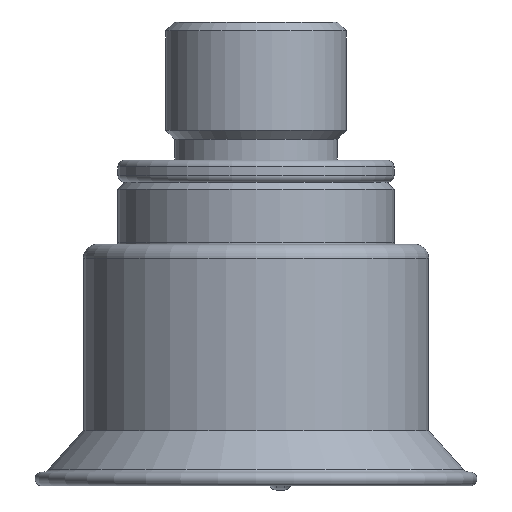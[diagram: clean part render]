
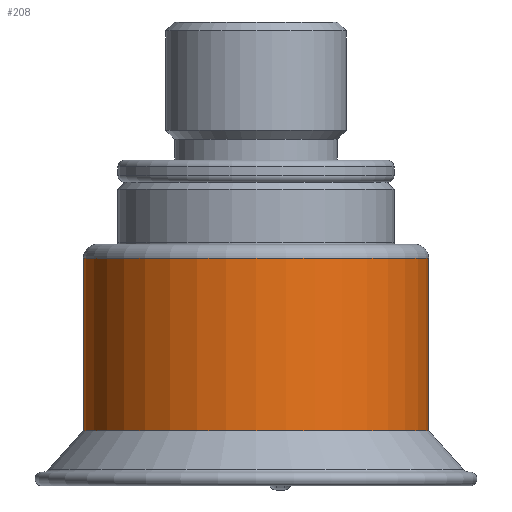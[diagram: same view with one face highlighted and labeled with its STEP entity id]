
A CAD part, front view. The second image highlights one B-rep face of the part: STEP entity #208.
In plain terms, the highlighted cylindrical face has radius 12.5 mm (diameter 25 mm), a full revolution.
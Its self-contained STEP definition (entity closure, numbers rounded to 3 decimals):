
#208 = ADVANCED_FACE( '', ( #468, #469 ), #470, .T. );
#468 = FACE_OUTER_BOUND( '', #789, .T. );
#469 = FACE_OUTER_BOUND( '', #790, .T. );
#470 = CYLINDRICAL_SURFACE( '', #791, 12.5 );
#789 = EDGE_LOOP( '', ( #1181 ) );
#790 = EDGE_LOOP( '', ( #1182 ) );
#791 = AXIS2_PLACEMENT_3D( '', #1183, #1184, #1185 );
#1181 = ORIENTED_EDGE( '', *, *, #1430, .T. );
#1182 = ORIENTED_EDGE( '', *, *, #1432, .F. );
#1183 = CARTESIAN_POINT( '', ( 0., 0., 10.665 ) );
#1184 = DIRECTION( '', ( 0., 0., -1. ) );
#1185 = DIRECTION( '', ( 1., 0., 0. ) );
#1430 = EDGE_CURVE( '', #1609, #1609, #1610, .T. );
#1432 = EDGE_CURVE( '', #1612, #1612, #1613, .T. );
#1609 = VERTEX_POINT( '', #1834 );
#1610 = CIRCLE( '', #1835, 12.5 );
#1612 = VERTEX_POINT( '', #1837 );
#1613 = CIRCLE( '', #1838, 12.5 );
#1834 = CARTESIAN_POINT( '', ( 12.5, 0., -5.701 ) );
#1835 = AXIS2_PLACEMENT_3D( '', #2071, #2072, #2073 );
#1837 = CARTESIAN_POINT( '', ( 12.5, 0., 6.799 ) );
#1838 = AXIS2_PLACEMENT_3D( '', #2074, #2075, #2076 );
#2071 = CARTESIAN_POINT( '', ( 0., 0., -5.701 ) );
#2072 = DIRECTION( '', ( 0., 0., 1. ) );
#2073 = DIRECTION( '', ( 1., 0., 0. ) );
#2074 = CARTESIAN_POINT( '', ( 0., 0., 6.799 ) );
#2075 = DIRECTION( '', ( 0., 0., 1. ) );
#2076 = DIRECTION( '', ( 1., 0., 0. ) );
